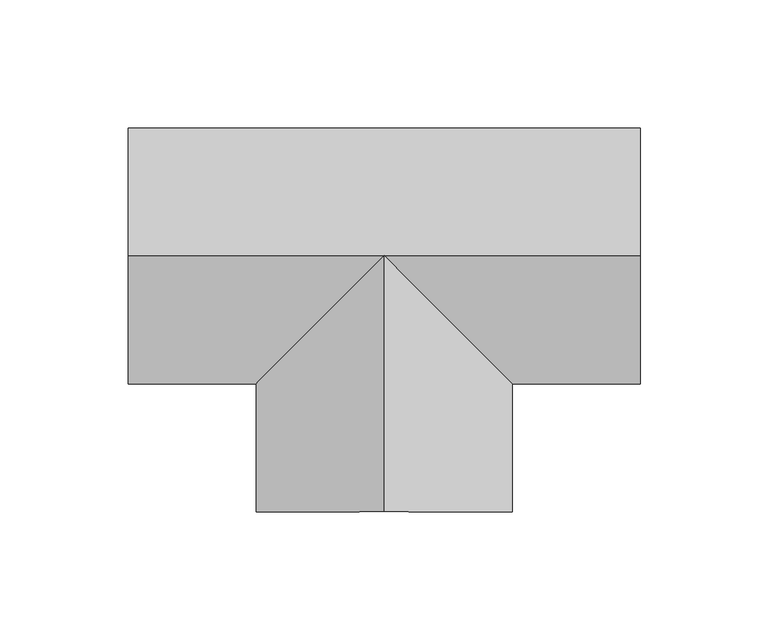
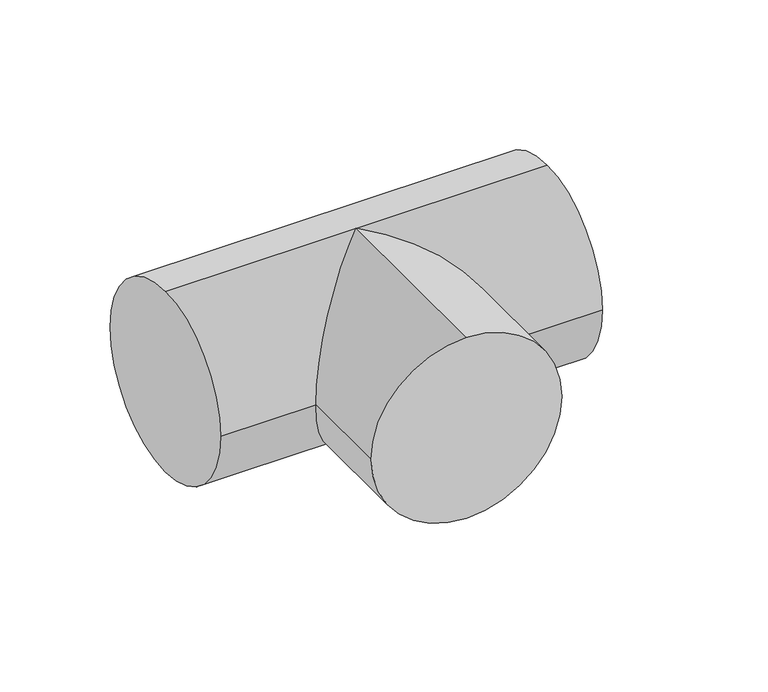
"""IFC4 building model written with IfcOpenShell, lengths in millimetres: duct fitting geometry, M_Te redonda : Estándar."""

from ifc_helpers import new_model, si_unit, frame, origin, place, context, project, spatial, circle_curve, ellipse_curve, source, transform, mapped, element, save
from ifc_brep_helpers import plane_surface, cylinder_surface, advanced_brep


def duct_fitting_5dc45124(model_context):
    return source(origin(), model_context, "Body", "AdvancedBrep", [
        advanced_brep(
        [(0.0, -100.0, 50.0), (-50.0, -100.0, 0.0), (0.0, -100.0, -50.0), (50.0, -100.0, 0.0), (50.0, -50.0, 0.0), (0.0, 0.0, 50.0), (0.0, 0.0, -50.0), (-50.0, -50.0, 0.0), (-100.0, 0.0, 50.0), (-100.0, 50.0, 0.0), (-100.0, 0.0, -50.0), (-100.0, -50.0, 0.0), (100.0, 0.0, 50.0), (100.0, -50.0, 0.0), (100.0, 0.0, -50.0), (100.0, 50.0, 0.0)],
        [
            (0, 1, circle_curve(frame((0.0, -100.0, 0.0), z_axis=(0.0, -1.0, 0.0), x_axis=(1.0, 0.0, 0.0)), 50.0)),
            (1, 2, circle_curve(frame((0.0, -100.0, 0.0), z_axis=(0.0, -1.0, 0.0), x_axis=(1.0, 0.0, 0.0)), 50.0)),
            (2, 3, circle_curve(frame((0.0, -100.0, 0.0), z_axis=(0.0, -1.0, 0.0), x_axis=(1.0, 0.0, 0.0)), 50.0)),
            (3, 0, circle_curve(frame((0.0, -100.0, 0.0), z_axis=(0.0, -1.0, 0.0), x_axis=(1.0, 0.0, 0.0)), 50.0)),
            (3, 4),
            (4, 5, ellipse_curve(frame((0.0, 0.0, 0.0), z_axis=(-0.7071067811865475, -0.7071067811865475, 0.0), x_axis=(-0.7071067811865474, 0.7071067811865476, 0.0)), 70.7106781, 50.0)),
            (5, 0),
            (2, 6),
            (6, 4, ellipse_curve(frame((0.0, 0.0, 0.0), z_axis=(-0.7071067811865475, -0.7071067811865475, 0.0), x_axis=(-0.7071067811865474, 0.7071067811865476, 0.0)), 70.7106781, 50.0)),
            (1, 7),
            (7, 6, ellipse_curve(frame((0.0, 0.0, 0.0), z_axis=(0.7071067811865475, -0.7071067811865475, 0.0), x_axis=(0.7071067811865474, 0.7071067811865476, 0.0)), 70.7106781, 50.0)),
            (5, 7, ellipse_curve(frame((0.0, 0.0, 0.0), z_axis=(0.7071067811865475, -0.7071067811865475, 0.0), x_axis=(0.7071067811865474, 0.7071067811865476, 0.0)), 70.7106781, 50.0)),
            (8, 9, circle_curve(frame((-100.0, 0.0, 0.0), z_axis=(-1.0, 0.0, 0.0), x_axis=(0.0, 1.0, 0.0)), 50.0)),
            (9, 10, circle_curve(frame((-100.0, 0.0, 0.0), z_axis=(-1.0, 0.0, 0.0), x_axis=(0.0, 1.0, 0.0)), 50.0)),
            (10, 11, circle_curve(frame((-100.0, 0.0, 0.0), z_axis=(-1.0, 0.0, 0.0), x_axis=(0.0, 1.0, 0.0)), 50.0)),
            (11, 8, circle_curve(frame((-100.0, 0.0, 0.0), z_axis=(-1.0, 0.0, 0.0), x_axis=(0.0, 1.0, 0.0)), 50.0)),
            (12, 13, circle_curve(frame((100.0, 0.0, 0.0), z_axis=(1.0, 0.0, 0.0), x_axis=(0.0, 1.0, 0.0)), 50.0)),
            (13, 14, circle_curve(frame((100.0, 0.0, 0.0), z_axis=(1.0, 0.0, 0.0), x_axis=(0.0, 1.0, 0.0)), 50.0)),
            (14, 15, circle_curve(frame((100.0, 0.0, 0.0), z_axis=(1.0, 0.0, 0.0), x_axis=(0.0, 1.0, 0.0)), 50.0)),
            (15, 12, circle_curve(frame((100.0, 0.0, 0.0), z_axis=(1.0, 0.0, 0.0), x_axis=(0.0, 1.0, 0.0)), 50.0)),
            (8, 5),
            (5, 12),
            (15, 9),
            (14, 6),
            (6, 10),
            (7, 11),
            (13, 4),
        ],
        [
            plane_surface(frame((0.0, -100.0, 0.0), z_axis=(0.0, -1.0, 0.0), x_axis=(0.0, 0.0, 1.0))),
            cylinder_surface(frame((0.0, 0.0, 0.0), z_axis=(0.0, 1.0, 0.0), x_axis=(1.0, 0.0, 0.0)), 50.0),
            plane_surface(frame((-100.0, 0.0, 0.0), z_axis=(-1.0, 0.0, 0.0), x_axis=(0.0, 0.0, 1.0))),
            plane_surface(frame((100.0, 0.0, 0.0), z_axis=(1.0, 0.0, 0.0), x_axis=(0.0, 0.0, 1.0))),
            cylinder_surface(frame((-100.0, 0.0, 0.0), z_axis=(-1.0, 0.0, 0.0), x_axis=(0.0, 1.0, 0.0)), 50.0),
        ],
        [
            (0, [[1, 2, 3, 4]]),
            (1, [[-4, 5, 6, 7]]),
            (1, [[-3, 8, 9, -5]]),
            (1, [[-2, 10, 11, -8]]),
            (1, [[-1, -7, 12, -10]]),
            (2, [[13, 14, 15, 16]]),
            (3, [[17, 18, 19, 20]]),
            (4, [[-13, 21, 22, -20, 23]]),
            (4, [[-14, -23, -19, 24, 25]]),
            (4, [[-15, -25, -11, 26]]),
            (4, [[-18, 27, -9, -24]]),
            (4, [[-16, -26, -12, -21]]),
            (4, [[-17, -22, -6, -27]]),
        ],
    ),
    ])


if __name__ == "__main__":
    model = new_model("IFC4")
    model_context = context("Model", 3, world=origin())
    ifc_project = project(units=[si_unit("LENGTHUNIT", "METRE", prefix="MILLI")], contexts=[model_context])
    site = spatial("IfcSite", under=ifc_project)
    building = spatial("IfcBuilding", under=site)
    placement = place(None, origin())
    duct_fitting_shape = duct_fitting_5dc45124(model_context)
    element("IfcDuctFitting", 1, ObjectType="M_Te redonda : Estándar", at=placement, inside=building, context=model_context, shape_type="MappedRepresentation", body=[
        mapped(duct_fitting_shape, transform((0.0, 0.0, 0.0), x_axis=(1.0, 0.0, 0.0), y_axis=(0.0, 1.0, 0.0), z_axis=(0.0, 0.0, 1.0))),
    ])
    save(model, "model.ifc")
